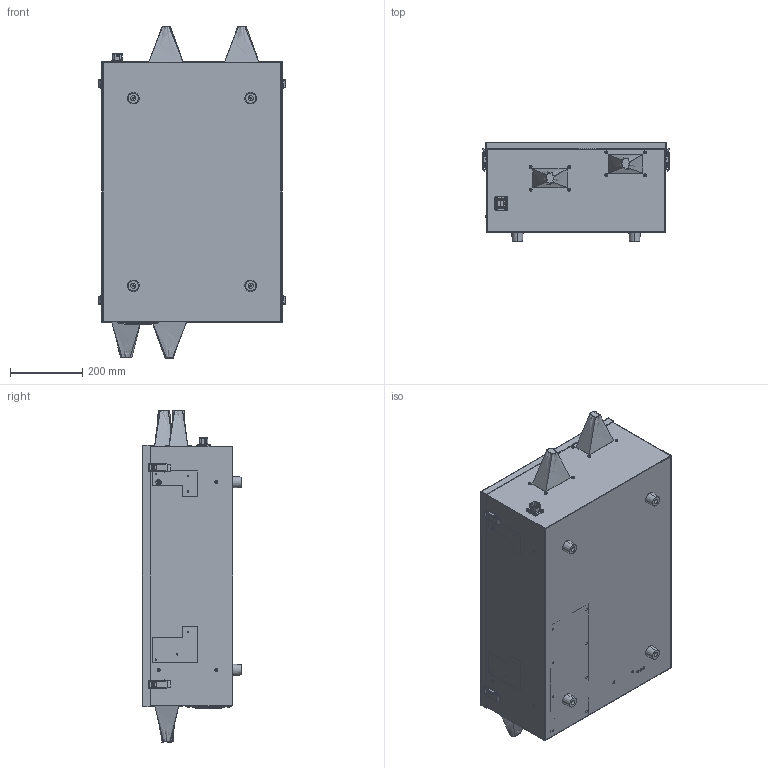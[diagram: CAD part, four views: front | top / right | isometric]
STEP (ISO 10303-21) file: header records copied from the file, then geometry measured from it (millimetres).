
FILE_DESCRIPTION (( 'STEP AP203' ), '1' );
FILE_NAME ('CR800-MB.STEP', '2018-06-15T02:05:00', ( '' ), ( '' ), 'SwSTEP 2.0', 'SolidWorks 2015', '' );
FILE_SCHEMA (( 'CONFIG_CONTROL_DESIGN' ));
Length unit declared in the file: millimetre
Products named in the file (25): J_M4X10; FAN-COVER_CR800; CR800-FIX-PLATE; J_M4X8; M_FG9D; CBL-cover_A; CR800-MB; FIN_1; M_1939840-1; CHASSIS_CR800-MB; M_FG9D_2; CN1-CBL-cover_A; SIDE-PLATE-F; fin_asm; J_M3X10; SIDE-PLATE-R; DTK-20-5P; TOP-COVER; PLATE-A; J_M4x6_binding head; C-1244-1; PLATE-B; J_M4X12; J_K3225; chassis-assy
Assembly tree (58 placements, depth 3):
  CR800-MB
    chassis-assy
      CHASSIS_CR800-MB
      SIDE-PLATE-F
      SIDE-PLATE-R
      PLATE-A
      PLATE-B
    CR800-FIX-PLATE
    CBL-cover_A  x3
    M_1939840-1
    CN1-CBL-cover_A
    J_M3X10  x4
    TOP-COVER
    C-1244-1  x4
    J_K3225  x4
    FAN-COVER_CR800
    M_FG9D
    fin_asm
      FIN_1
      M_FG9D_2
    DTK-20-5P
    J_M4x6_binding head  x16
    J_M4X12  x4
    J_M4X10  x4
    J_M4X8  x3
Bounding box: 517 x 275 x 920 mm (x, y, z)
Volume: 6193513.7 mm3; surface area: 4244525.7 mm2
Topology: 84 solids, 84 shells, 2936 faces, 7511 edges, 4800 vertices
Faces by surface type: plane 1842, cylinder 771, bspline 113, cone 112, torus 98
Entity records: 62370 total; most frequent: CARTESIAN_POINT 13789, ORIENTED_EDGE 9486, DIRECTION 9073, EDGE_CURVE 4743, VECTOR 3249, LINE 3249, VERTEX_POINT 3026, AXIS2_PLACEMENT_3D 2912
